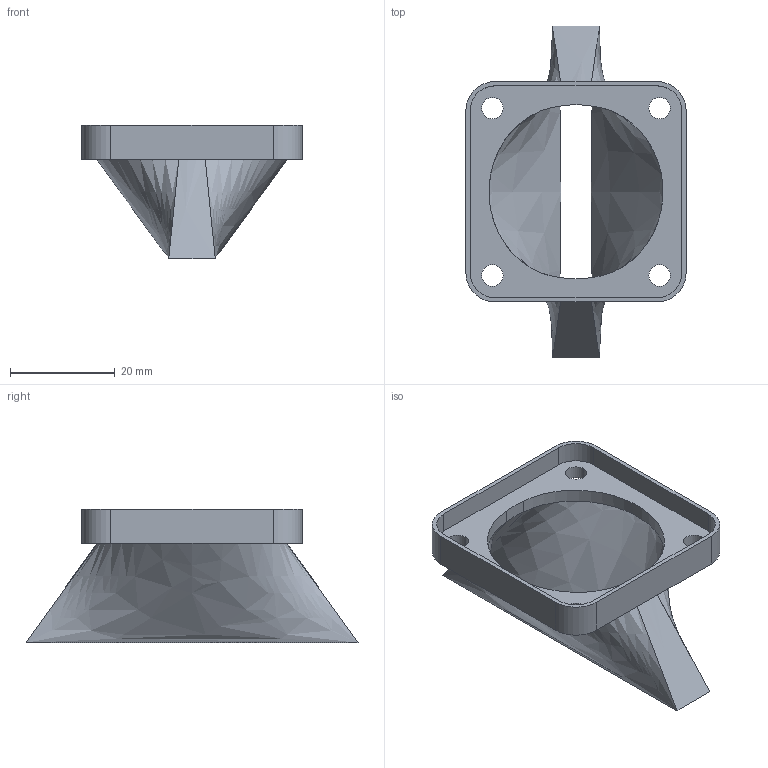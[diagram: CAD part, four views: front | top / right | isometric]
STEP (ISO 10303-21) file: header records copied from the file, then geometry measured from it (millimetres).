
FILE_DESCRIPTION (( 'STEP AP203' ), '1' );
FILE_NAME ('Type_A_Air_Duct_Short.STEP', '2026-07-29T20:51:30', ( '' ), ( '' ), 'SwSTEP 2.0', 'SolidWorks 2024', '' );
FILE_SCHEMA (( 'CONFIG_CONTROL_DESIGN' ));
Length unit declared in the file: inch
Products named in the file (1): Type_A_Air_Duct_Short
Bounding box: 42.14 x 63.5 x 25.59 mm (x, y, z)
Volume: 5766.7 mm3; surface area: 8752.7 mm2
Topology: 1 solids, 1 shells, 40 faces, 111 edges, 75 vertices
Faces by surface type: cylinder 16, plane 12, bspline 12
Entity records: 5553 total; most frequent: CARTESIAN_POINT 4447, ORIENTED_EDGE 222, DIRECTION 196, EDGE_CURVE 111, VERTEX_POINT 75, AXIS2_PLACEMENT_3D 72, EDGE_LOOP 52, LINE 52
